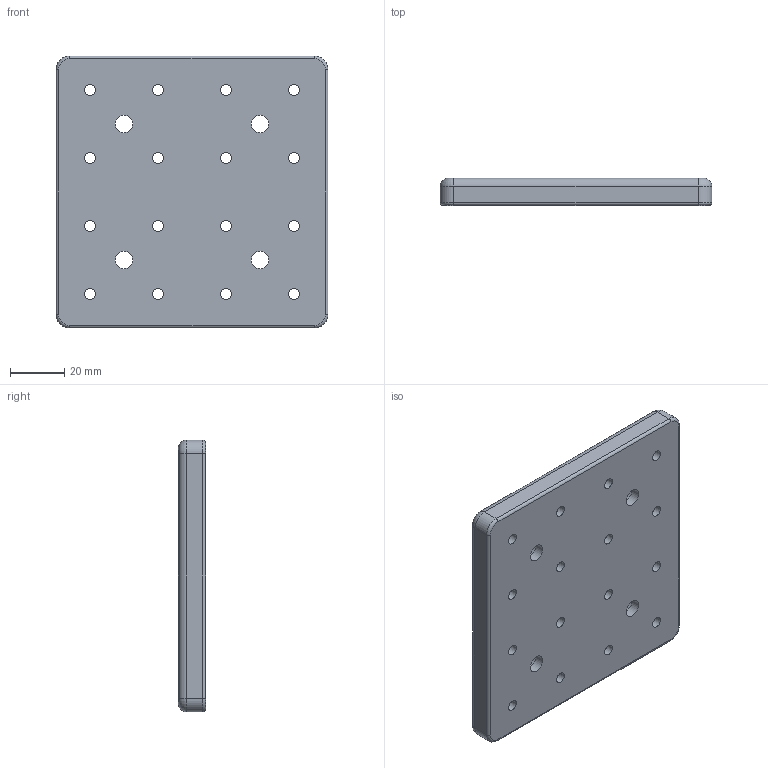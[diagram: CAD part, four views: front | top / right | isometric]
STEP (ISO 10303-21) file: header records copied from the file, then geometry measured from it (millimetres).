
FILE_DESCRIPTION (( 'STEP AP203' ), '1' );
FILE_NAME ('M-PAB-1010-10.step', '2017-01-10T01:14:49', ( '¦K¬P' ), ( '' ), 'SwSTEP 2.0', 'SolidWorks 2012', '' );
FILE_SCHEMA (( 'CONFIG_CONTROL_DESIGN' ));
Length unit declared in the file: millimetre
Products named in the file (1): M-PAB-1010-10
Bounding box: 100 x 10 x 100 mm (x, y, z)
Volume: 94007.8 mm3; surface area: 25722.2 mm2
Topology: 1 solids, 1 shells, 54 faces, 128 edges, 80 vertices
Faces by surface type: cylinder 36, plane 10, torus 8
Full cylindrical faces by diameter (mm): 4 x16, 6.5 x4, 11 x4
Entity records: 1621 total; most frequent: DIRECTION 294, CARTESIAN_POINT 239, ORIENTED_EDGE 208, AXIS2_PLACEMENT_3D 135, EDGE_LOOP 122, EDGE_CURVE 104, VERTEX_POINT 80, CIRCLE 80
